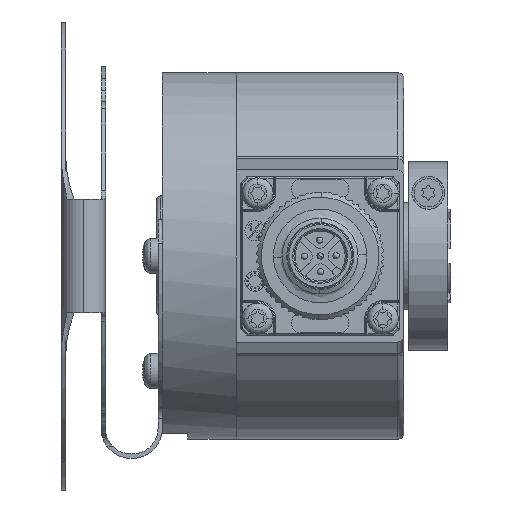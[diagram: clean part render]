
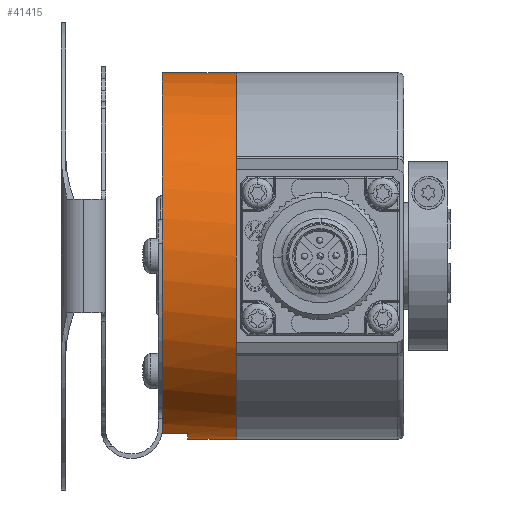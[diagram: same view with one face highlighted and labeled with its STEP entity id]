
A CAD part, front view. The second image highlights one B-rep face of the part: STEP entity #41415.
In plain terms, the highlighted cylindrical face has radius 29 mm (diameter 58 mm), a partial arc.
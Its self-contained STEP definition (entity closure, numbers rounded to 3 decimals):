
#393 = VERTEX_POINT ( 'NONE', #6610 ) ;
#490 = DIRECTION ( 'NONE',  ( 1., 0., 0. ) ) ;
#765 = VERTEX_POINT ( 'NONE', #24637 ) ;
#2179 = VERTEX_POINT ( 'NONE', #26817 ) ;
#2537 = CARTESIAN_POINT ( 'NONE',  ( 0.378, 25.423, 0. ) ) ;
#6081 = AXIS2_PLACEMENT_3D ( 'NONE', #35163, #42827, #14213 ) ;
#6610 = CARTESIAN_POINT ( 'NONE',  ( 8.068, 25.423, -29. ) ) ;
#6822 = EDGE_LOOP ( 'NONE', ( #53316, #49184, #8505, #44845, #33000, #42945 ) ) ;
#7235 = DIRECTION ( 'NONE',  ( 0., 0., -1. ) ) ;
#8505 = ORIENTED_EDGE ( 'NONE', *, *, #23535, .F. ) ;
#12251 = CIRCLE ( 'NONE', #6081, 29. ) ;
#12759 = CARTESIAN_POINT ( 'NONE',  ( 8.068, 18.423, -28.142 ) ) ;
#14181 = VERTEX_POINT ( 'NONE', #49570 ) ;
#14213 = DIRECTION ( 'NONE',  ( 0., 0., -1. ) ) ;
#14764 = LINE ( 'NONE', #27421, #17113 ) ;
#16209 = FACE_OUTER_BOUND ( 'NONE', #6822, .T. ) ;
#16511 = CARTESIAN_POINT ( 'NONE',  ( 8.068, 25.423, 29. ) ) ;
#17113 = VECTOR ( 'NONE', #44177, 1000. ) ;
#18170 = EDGE_CURVE ( 'NONE', #2179, #14181, #12251, .T. ) ;
#18879 = EDGE_CURVE ( 'NONE', #765, #393, #21414, .T. ) ;
#20717 = CARTESIAN_POINT ( 'NONE',  ( 8.068, 25.423, 0. ) ) ;
#21135 = DIRECTION ( 'NONE',  ( 0., 0., -1. ) ) ;
#21414 = LINE ( 'NONE', #21698, #28141 ) ;
#21698 = CARTESIAN_POINT ( 'NONE',  ( 8.068, 25.423, -29. ) ) ;
#23535 = EDGE_CURVE ( 'NONE', #41087, #14181, #53564, .T. ) ;
#23722 = EDGE_CURVE ( 'NONE', #41087, #765, #44258, .T. ) ;
#24637 = CARTESIAN_POINT ( 'NONE',  ( 0.378, 25.423, -29. ) ) ;
#26174 = EDGE_CURVE ( 'NONE', #2179, #33326, #14764, .T. ) ;
#26817 = CARTESIAN_POINT ( 'NONE',  ( -3.622, 25.423, 29. ) ) ;
#27421 = CARTESIAN_POINT ( 'NONE',  ( 8.068, 25.423, 29. ) ) ;
#28141 = VECTOR ( 'NONE', #490, 1000. ) ;
#29251 = DIRECTION ( 'NONE',  ( 1., 0., 0. ) ) ;
#29414 = DIRECTION ( 'NONE',  ( 1., 0., 0. ) ) ;
#32718 = DIRECTION ( 'NONE',  ( -1., 0., 0. ) ) ;
#32835 = CIRCLE ( 'NONE', #34605, 29. ) ;
#33000 = ORIENTED_EDGE ( 'NONE', *, *, #18879, .T. ) ;
#33035 = CARTESIAN_POINT ( 'NONE',  ( 8.068, 25.423, 0. ) ) ;
#33326 = VERTEX_POINT ( 'NONE', #16511 ) ;
#33573 = CYLINDRICAL_SURFACE ( 'NONE', #44763, 29. ) ;
#34605 = AXIS2_PLACEMENT_3D ( 'NONE', #20717, #29251, #7235 ) ;
#35163 = CARTESIAN_POINT ( 'NONE',  ( -3.622, 25.423, 0. ) ) ;
#36405 = VECTOR ( 'NONE', #32718, 1000. ) ;
#36435 = DIRECTION ( 'NONE',  ( 0., 0., 1. ) ) ;
#40013 = DIRECTION ( 'NONE',  ( 1., 0., 0. ) ) ;
#41087 = VERTEX_POINT ( 'NONE', #50157 ) ;
#41415 = ADVANCED_FACE ( 'NONE', ( #16209 ), #33573, .T. ) ;
#42827 = DIRECTION ( 'NONE',  ( 1., 0., 0. ) ) ;
#42945 = ORIENTED_EDGE ( 'NONE', *, *, #44941, .F. ) ;
#44177 = DIRECTION ( 'NONE',  ( 1., 0., 0. ) ) ;
#44258 = CIRCLE ( 'NONE', #53054, 29. ) ;
#44763 = AXIS2_PLACEMENT_3D ( 'NONE', #33035, #29414, #21135 ) ;
#44845 = ORIENTED_EDGE ( 'NONE', *, *, #23722, .T. ) ;
#44941 = EDGE_CURVE ( 'NONE', #33326, #393, #32835, .T. ) ;
#49184 = ORIENTED_EDGE ( 'NONE', *, *, #18170, .T. ) ;
#49570 = CARTESIAN_POINT ( 'NONE',  ( -3.622, 18.423, -28.142 ) ) ;
#50157 = CARTESIAN_POINT ( 'NONE',  ( 0.378, 18.423, -28.142 ) ) ;
#53054 = AXIS2_PLACEMENT_3D ( 'NONE', #2537, #40013, #36435 ) ;
#53316 = ORIENTED_EDGE ( 'NONE', *, *, #26174, .F. ) ;
#53564 = LINE ( 'NONE', #12759, #36405 ) ;
